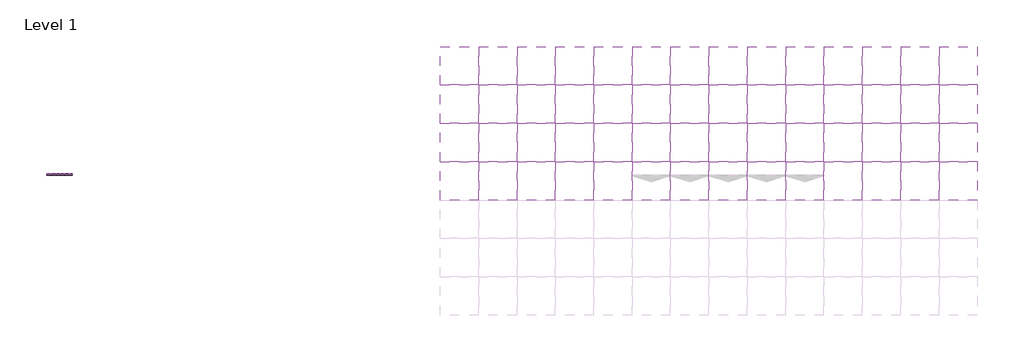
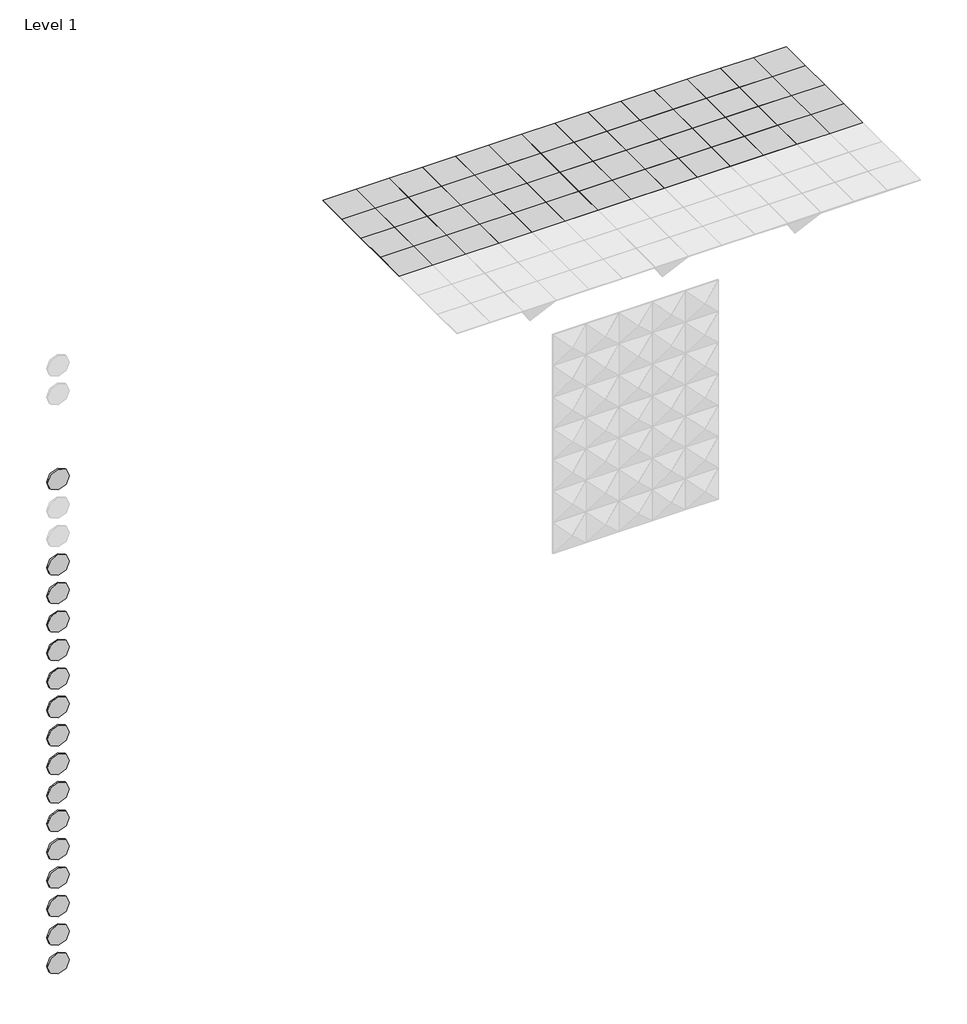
# One storey, part 2 of 2: 72 proxies.
"""IFC4 building model written with IfcOpenShell, lengths in millimetres."""

import ifcopenshell
import ifcopenshell.guid

model = None  # the IFC model being written
_history = None  # IfcOwnerHistory: only IFC2X3 demands one
_inside = {}  # id of a spatial element -> (the spatial element, [elements in it])
_under = {}  # id of a project, library or spatial element -> (it, [spatial elements below it])
_declared = {}  # id of a project -> (the project, [libraries it declares])
_typed = {}  # id of a type object -> (the type object, [elements of that type])
_made_of = {}  # id of a material, layer set ... -> (it, [elements and type objects made of it])


def new_model(schema):
    """Start an empty IFC model of exactly this schema.

    Asked for "IFC4X3", IfcOpenShell would pick the latest addendum, in which some entities
    have other attributes; the version numbers below select the first issue.
    IFC2X3 requires an IfcOwnerHistory on every rooted entity: one is made here for all.
    """
    global model, _history
    if schema == "IFC4X3":
        model = ifcopenshell.file(schema_version=(4, 3, 0, 0))
    else:
        model = ifcopenshell.file(schema=schema)
    _inside.clear()
    _under.clear()
    _declared.clear()
    _typed.clear()
    _made_of.clear()
    _history = None
    if model.schema == "IFC2X3":
        org = make("IfcOrganization", Name="unknown")
        user = make(
            "IfcPersonAndOrganization",
            ThePerson=make("IfcPerson", FamilyName="unknown"),
            TheOrganization=org,
        )
        app = make(
            "IfcApplication",
            ApplicationDeveloper=org,
            Version="unknown",
            ApplicationFullName="unknown",
            ApplicationIdentifier="unknown",
        )
        _history = make(
            "IfcOwnerHistory",
            OwningUser=user,
            OwningApplication=app,
            ChangeAction="ADDED",
            CreationDate=0,
        )
    return model


def make(cls, **values):
    """One entity of the class cls with the attributes given. An attribute that is None is left unset."""
    return model.create_entity(
        cls, **{name: value for name, value in values.items() if value is not None}
    )


def rooted(cls, **values):
    """An entity with a GlobalId (a new one), such as an element, a storey or a relation."""
    return make(cls, GlobalId=ifcopenshell.guid.new(), OwnerHistory=_history, **values)


def si_unit(unit_type, name, prefix=None):
    """IfcSIUnit, for example si_unit("LENGTHUNIT", "METRE", prefix="MILLI")."""
    return make("IfcSIUnit", UnitType=unit_type, Prefix=prefix, Name=name)


def assignment(units):
    """IfcUnitAssignment: the units of a project."""
    return None if units is None else make("IfcUnitAssignment", Units=units)


def point(xyz):
    """IfcCartesianPoint."""
    return None if xyz is None else make("IfcCartesianPoint", Coordinates=xyz)


def direction(xyz):
    """IfcDirection."""
    return None if xyz is None else make("IfcDirection", DirectionRatios=xyz)


def frame(location, z_axis=None, x_axis=None):
    """IfcAxis2Placement3D, a coordinate frame: its origin and axes. An axis left out is left unset."""
    return make(
        "IfcAxis2Placement3D",
        Location=point(location),
        Axis=direction(z_axis),
        RefDirection=direction(x_axis),
    )


def frame_2d(location, x_axis=None):
    """IfcAxis2Placement2D, a coordinate frame in the plane: its origin and x axis."""
    return make(
        "IfcAxis2Placement2D", Location=point(location), RefDirection=direction(x_axis)
    )


def origin():
    """The frame at (0, 0, 0) with its axes left unset."""
    return frame((0.0, 0.0, 0.0))


def origin_with_axes():
    """The frame at (0, 0, 0) with the z axis (0, 0, 1) and the x axis (1, 0, 0) written out."""
    return frame((0.0, 0.0, 0.0), z_axis=(0.0, 0.0, 1.0), x_axis=(1.0, 0.0, 0.0))


def place(relative_to, where):
    """IfcLocalPlacement: puts the frame where relative to a parent placement (None: the world)."""
    return make(
        "IfcLocalPlacement", PlacementRelTo=relative_to, RelativePlacement=where
    )


def context(
    kind, dimensions, precision=None, world=None, true_north=None, identifier=None
):
    """IfcGeometricRepresentationContext, for example the 3D "Model" context."""
    return make(
        "IfcGeometricRepresentationContext",
        ContextIdentifier=identifier,
        ContextType=kind,
        CoordinateSpaceDimension=dimensions,
        Precision=precision,
        WorldCoordinateSystem=world,
        TrueNorth=true_north,
    )


def project(units=None, contexts=None):
    """IfcProject with its units and contexts."""
    return rooted(
        "IfcProject",
        Name="project",
        RepresentationContexts=contexts,
        UnitsInContext=assignment(units),
    )


def spatial(cls, under=None, at=None, **own):
    """A site, building, storey or space (cls), placed at a placement, below another one or the project."""
    s = rooted(cls, ObjectPlacement=at, **own)
    if under is not None:
        _under.setdefault(under.id(), (under, []))[1].append(s)
    return s


def polyline(points):
    """IfcPolyline through the points."""
    return make("IfcPolyline", Points=[point(p) for p in points])


def circle_curve(where, radius):
    """IfcCircle in the frame where."""
    return make("IfcCircle", Position=where, Radius=radius)


def trimmed(basis, trim1, trim2, sense, master):
    """IfcTrimmedCurve: the piece of a basis curve between two trims."""
    return make(
        "IfcTrimmedCurve",
        BasisCurve=basis,
        Trim1=trim1,
        Trim2=trim2,
        SenseAgreement=sense,
        MasterRepresentation=master,
    )


def segment(curve, same_sense, transition):
    """IfcCompositeCurveSegment."""
    return make(
        "IfcCompositeCurveSegment",
        Transition=transition,
        SameSense=same_sense,
        ParentCurve=curve,
    )


def composite_curve(segments, self_intersect=None):
    """IfcCompositeCurve: segments joined end to end."""
    return make("IfcCompositeCurve", Segments=segments, SelfIntersect=self_intersect)


def outline(outer, holes=None, kind="AREA"):
    """IfcArbitraryClosedProfileDef: a profile drawn as a closed curve; with holes, ...WithVoids."""
    if holes is None:
        return make("IfcArbitraryClosedProfileDef", ProfileType=kind, OuterCurve=outer)
    return make(
        "IfcArbitraryProfileDefWithVoids",
        ProfileType=kind,
        OuterCurve=outer,
        InnerCurves=holes,
    )


def extrude(swept, where, along, depth):
    """IfcExtrudedAreaSolid: the profile swept, set in the frame where, extruded along a direction by depth."""
    return make(
        "IfcExtrudedAreaSolid",
        SweptArea=swept,
        Position=where,
        ExtrudedDirection=direction(along),
        Depth=depth,
    )


def faces_of(points, faces, orient=None, outer=None):
    """IfcFace entities. A face is a list of loops; a loop is a list of indices into points, from 0.

    orient and outer hold one flag for each loop. By default every Orientation is true, the
    first loop of a face is its IfcFaceOuterBound and the others are IfcFaceBound.
    """
    made = []
    for i, loops in enumerate(faces):
        bounds = []
        for j, loop in enumerate(loops):
            is_outer = j == 0 if outer is None else outer[i][j]
            bounds.append(
                make(
                    "IfcFaceOuterBound" if is_outer else "IfcFaceBound",
                    Bound=make("IfcPolyLoop", Polygon=[points[k] for k in loop]),
                    Orientation=True if orient is None else orient[i][j],
                )
            )
        made.append(make("IfcFace", Bounds=bounds))
    return made


def faceted_brep(points, faces, orient=None, outer=None, voids=None):
    """IfcFacetedBrep: a solid bounded by flat faces; with voids (closed shells), ...WithVoids."""
    shared = [point(p) for p in points]
    hull = make("IfcClosedShell", CfsFaces=faces_of(shared, faces, orient, outer))
    if voids is None:
        return make("IfcFacetedBrep", Outer=hull)
    return make(
        "IfcFacetedBrepWithVoids",
        Outer=hull,
        Voids=[
            make(cls, CfsFaces=faces_of(shared, fs, o, b)) for cls, fs, o, b in voids
        ],
    )


def shape(context_of_items, identifier, shape_type, items):
    """IfcShapeRepresentation: the items that make up one representation, for example the "Body"."""
    return make(
        "IfcShapeRepresentation",
        ContextOfItems=context_of_items,
        RepresentationIdentifier=identifier,
        RepresentationType=shape_type,
        Items=items,
    )


def source(mapping_origin, context_of_items, identifier, shape_type, items):
    """IfcRepresentationMap: a shape defined once, which mapped items show again and again."""
    return make(
        "IfcRepresentationMap",
        MappingOrigin=mapping_origin,
        MappedRepresentation=shape(context_of_items, identifier, shape_type, items),
    )


def transform(
    local_origin,
    x_axis=None,
    y_axis=None,
    z_axis=None,
    scale=None,
    scale2=None,
    scale3=None,
    uniform=True,
):
    """IfcCartesianTransformationOperator3D, or its non-uniform kind. x_axis, y_axis, z_axis: its Axis1, 2, 3."""
    if uniform:
        return make(
            "IfcCartesianTransformationOperator3D",
            Axis1=direction(x_axis),
            Axis2=direction(y_axis),
            LocalOrigin=point(local_origin),
            Scale=scale,
            Axis3=direction(z_axis),
        )
    return make(
        "IfcCartesianTransformationOperator3DnonUniform",
        Axis1=direction(x_axis),
        Axis2=direction(y_axis),
        LocalOrigin=point(local_origin),
        Scale=scale,
        Axis3=direction(z_axis),
        Scale2=scale2,
        Scale3=scale3,
    )


def mapped(mapping_source, mapping_target):
    """IfcMappedItem: shows the shape of a source again, moved by a transform."""
    return make(
        "IfcMappedItem", MappingSource=mapping_source, MappingTarget=mapping_target
    )


def made_of(thing, what):
    """Note that an element or type object is made of a material, layer set ...; save() writes the relation."""
    if what is not None:
        _made_of.setdefault(what.id(), (what, []))[1].append(thing)
    return thing


def element(
    cls,
    number,
    at=None,
    inside=None,
    cuts=None,
    type_object=None,
    material=None,
    context=None,
    identifier="Body",
    shape_type=None,
    held_by="IfcProductDefinitionShape",
    body=None,
    shapes=None,
    **own,
):
    """One element of the class cls, such as IfcWall. Its Tag is "e" and its number.

    at: its placement. inside: the storey or other place that contains it. cuts: it is an
    opening in that element (IfcRelVoidsElement). A single representation is given by context,
    identifier, shape_type and body (its items); several are given by shapes. held_by: the class
    of the entity that holds the representations. save() writes the other relations.
    """
    e = rooted(cls, Tag="e%d" % number, ObjectPlacement=at, **own)
    if body is not None:
        shapes = [shape(context, identifier, shape_type, body)]
    if shapes is not None:
        e.Representation = make(held_by, Representations=shapes)
    if inside is not None:
        _inside.setdefault(inside.id(), (inside, []))[1].append(e)
    if cuts is not None:
        rooted(
            "IfcRelVoidsElement", RelatingBuildingElement=cuts, RelatedOpeningElement=e
        )
    if type_object is not None:
        _typed.setdefault(type_object.id(), (type_object, []))[1].append(e)
    return made_of(e, material)


def aggregate(whole, parts):
    """IfcRelAggregates: a whole, such as a stair, and the parts it consists of."""
    return rooted("IfcRelAggregates", RelatingObject=whole, RelatedObjects=parts)


def save(model, path):
    """Write the relations noted so far, then the file.

    IfcRelAggregates (storeys below a building ...), IfcRelContainedInSpatialStructure (elements
    in a storey), IfcRelDefinesByType, IfcRelAssociatesMaterial and IfcRelDeclares: one each for
    every whole, place, type object, material and project.
    """
    for whole, parts in _under.values():
        aggregate(whole, parts)
    for where, things in _inside.values():
        rooted(
            "IfcRelContainedInSpatialStructure",
            RelatedElements=things,
            RelatingStructure=where,
        )
    for kind, things in _typed.values():
        rooted("IfcRelDefinesByType", RelatedObjects=things, RelatingType=kind)
    for what, things in _made_of.values():
        rooted("IfcRelAssociatesMaterial", RelatedObjects=things, RelatingMaterial=what)
    for by, libraries in _declared.values():
        rooted("IfcRelDeclares", RelatingContext=by, RelatedDefinitions=libraries)
    model.write(path)


def generic_models_96c18039(model_context):
    return source(origin(), model_context, "Body", "SolidModel", [
        faceted_brep([(0.5, 0.5, 470.8109243), (-0.5, 0.5, 470.8109243), (-0.5, -0.5, 470.8109243), (0.5, -0.5, 470.8109243), (300.0, 300.0, 11.5689886), (300.0, -300.0, 11.5689886), (-300.0, -300.0, 11.5689886), (-300.0, 300.0, 11.5689886)], [[[0, 1, 2, 3]], [[4, 5, 6, 7]], [[4, 7, 1, 0]], [[7, 6, 2, 1]], [[6, 5, 3, 2]], [[5, 4, 0, 3]]]),
        extrude(outline(polyline([(-300.0, 300.0), (300.0, 300.0), (300.0, -300.0), (-300.0, -300.0), (-300.0, 300.0)])), origin_with_axes(), (0.0, 0.0, 1.0), 11.5689886),
    ])


def generic_models_05e9e51e(model_context):
    return source(origin(), model_context, "Body", "SolidModel", [
        faceted_brep([(0.5, 0.5, 235.6489907), (-0.5, 0.5, 235.6489907), (-0.5, -0.5, 235.6489907), (0.5, -0.5, 235.6489907), (300.0, 300.0, 11.5689886), (300.0, -300.0, 11.5689886), (-300.0, -300.0, 11.5689886), (-300.0, 300.0, 11.5689886)], [[[0, 1, 2, 3]], [[4, 5, 6, 7]], [[4, 7, 1, 0]], [[7, 6, 2, 1]], [[6, 5, 3, 2]], [[5, 4, 0, 3]]]),
        extrude(outline(polyline([(-300.0, 300.0), (300.0, 300.0), (300.0, -300.0), (-300.0, -300.0), (-300.0, 300.0)])), origin_with_axes(), (0.0, 0.0, 1.0), 11.5689886),
    ])


def generic_models_07637b28(model_context):
    return source(origin(), model_context, "Body", "SolidModel", [
        faceted_brep([(0.5, 0.5, 100.6580242), (-0.5, 0.5, 100.6580242), (-0.5, -0.5, 100.6580242), (0.5, -0.5, 100.6580242), (300.0, 300.0, 11.5689886), (300.0, -300.0, 11.5689886), (-300.0, -300.0, 11.5689886), (-300.0, 300.0, 11.5689886)], [[[0, 1, 2, 3]], [[4, 5, 6, 7]], [[4, 7, 1, 0]], [[7, 6, 2, 1]], [[6, 5, 3, 2]], [[5, 4, 0, 3]]]),
        extrude(outline(polyline([(-300.0, 300.0), (300.0, 300.0), (300.0, -300.0), (-300.0, -300.0), (-300.0, 300.0)])), origin_with_axes(), (0.0, 0.0, 1.0), 11.5689886),
    ])


def materialmodel_materialmodel_8d9c29e1(model_context):
    return source(origin(), model_context, "Body", "SweptSolid", [
        extrude(outline(composite_curve([segment(trimmed(circle_curve(frame_2d((25.0, 0.0)), 200.0), [point((25.0, -200.0))], [point((25.0, 200.0))], False, "CARTESIAN"), True, "CONTINUOUS"), segment(trimmed(circle_curve(frame_2d((25.0, 0.0)), 200.0), [point((25.0, 200.0))], [point((25.0, -200.0))], False, "CARTESIAN"), True, "CONTINUOUS")], self_intersect=False)), frame((0.0, 2.1186748, 0.0), z_axis=(0.0, 1.0, 0.0), x_axis=(0.0, 0.0, 1.0)), (0.0, 0.0, 1.0), 22.8813252),
    ])


model = new_model("IFC4")

# Units and contexts
model_context = context("Model", 3, world=origin())
ifc_project = project(units=[si_unit("LENGTHUNIT", "METRE", prefix="MILLI")], contexts=[model_context])

# Site, building, storey
site = spatial("IfcSite", under=ifc_project)
building = spatial("IfcBuilding", under=site)
storey = spatial("IfcBuildingStorey", under=building, Name="Level 1", Elevation=0.0)

# Proxies
placement = place(None, origin())
generic_models_shape = generic_models_96c18039(model_context)
element("IfcBuildingElementProxy", 1, Name="Offecct - Spiegel Panel - High : Offecct - Spiegel Panel - High", ObjectType="Offecct - Spiegel Panel - High : Offecct - Spiegel Panel - High", at=placement, inside=storey, context=model_context, shape_type="MappedRepresentation", body=[
    mapped(generic_models_shape, transform((-2002.4310671, 531.0675754, 6600.0), x_axis=(1.0, 0.0, 0.0), y_axis=(0.0, -1.0, 0.0), z_axis=(0.0, 0.0, -1.0))),
])
element("IfcBuildingElementProxy", 2, Name="Offecct - Spiegel Panel - High : Offecct - Spiegel Panel - High", ObjectType="Offecct - Spiegel Panel - High : Offecct - Spiegel Panel - High", at=placement, inside=storey, context=model_context, shape_type="MappedRepresentation", body=[
    mapped(generic_models_shape, transform((397.5689329, 531.0675754, 6600.0), x_axis=(1.0, 0.0, 0.0), y_axis=(0.0, -1.0, 0.0), z_axis=(0.0, 0.0, -1.0))),
])
element("IfcBuildingElementProxy", 3, Name="Offecct - Spiegel Panel - High : Offecct - Spiegel Panel - High", ObjectType="Offecct - Spiegel Panel - High : Offecct - Spiegel Panel - High", at=placement, inside=storey, context=model_context, shape_type="MappedRepresentation", body=[
    mapped(generic_models_shape, transform((2797.5689329, 531.0675754, 6600.0), x_axis=(1.0, 0.0, 0.0), y_axis=(0.0, -1.0, 0.0), z_axis=(0.0, 0.0, -1.0))),
])
element("IfcBuildingElementProxy", 4, Name="Offecct - Spiegel Panel - High : Offecct - Spiegel Panel - High", ObjectType="Offecct - Spiegel Panel - High : Offecct - Spiegel Panel - High", at=placement, inside=storey, context=model_context, shape_type="MappedRepresentation", body=[
    mapped(generic_models_shape, transform((-2002.4310671, 1131.0675754, 6600.0), x_axis=(1.0, 0.0, 0.0), y_axis=(0.0, -1.0, 0.0), z_axis=(0.0, 0.0, -1.0))),
])
element("IfcBuildingElementProxy", 5, Name="Offecct - Spiegel Panel - High : Offecct - Spiegel Panel - High", ObjectType="Offecct - Spiegel Panel - High : Offecct - Spiegel Panel - High", at=placement, inside=storey, context=model_context, shape_type="MappedRepresentation", body=[
    mapped(generic_models_shape, transform((397.5689329, 1131.0675754, 6600.0), x_axis=(1.0, 0.0, 0.0), y_axis=(0.0, -1.0, 0.0), z_axis=(0.0, 0.0, -1.0))),
])
element("IfcBuildingElementProxy", 6, Name="Offecct - Spiegel Panel - High : Offecct - Spiegel Panel - High", ObjectType="Offecct - Spiegel Panel - High : Offecct - Spiegel Panel - High", at=placement, inside=storey, context=model_context, shape_type="MappedRepresentation", body=[
    mapped(generic_models_shape, transform((2797.5689329, 1131.0675754, 6600.0), x_axis=(1.0, 0.0, 0.0), y_axis=(0.0, -1.0, 0.0), z_axis=(0.0, 0.0, -1.0))),
])
element("IfcBuildingElementProxy", 7, Name="Offecct - Spiegel Panel - High : Offecct - Spiegel Panel - High", ObjectType="Offecct - Spiegel Panel - High : Offecct - Spiegel Panel - High", at=placement, inside=storey, context=model_context, shape_type="MappedRepresentation", body=[
    mapped(generic_models_shape, transform((-2002.4310671, 1731.0675754, 6600.0), x_axis=(1.0, 0.0, 0.0), y_axis=(0.0, -1.0, 0.0), z_axis=(0.0, 0.0, -1.0))),
])
element("IfcBuildingElementProxy", 8, Name="Offecct - Spiegel Panel - High : Offecct - Spiegel Panel - High", ObjectType="Offecct - Spiegel Panel - High : Offecct - Spiegel Panel - High", at=placement, inside=storey, context=model_context, shape_type="MappedRepresentation", body=[
    mapped(generic_models_shape, transform((397.5689329, 1731.0675754, 6600.0), x_axis=(1.0, 0.0, 0.0), y_axis=(0.0, -1.0, 0.0), z_axis=(0.0, 0.0, -1.0))),
])
element("IfcBuildingElementProxy", 9, Name="Offecct - Spiegel Panel - High : Offecct - Spiegel Panel - High", ObjectType="Offecct - Spiegel Panel - High : Offecct - Spiegel Panel - High", at=placement, inside=storey, context=model_context, shape_type="MappedRepresentation", body=[
    mapped(generic_models_shape, transform((2797.5689329, 1731.0675754, 6600.0), x_axis=(1.0, 0.0, 0.0), y_axis=(0.0, -1.0, 0.0), z_axis=(0.0, 0.0, -1.0))),
])
element("IfcBuildingElementProxy", 10, Name="Offecct - Spiegel Panel - High : Offecct - Spiegel Panel - High", ObjectType="Offecct - Spiegel Panel - High : Offecct - Spiegel Panel - High", at=placement, inside=storey, context=model_context, shape_type="MappedRepresentation", body=[
    mapped(generic_models_shape, transform((-2002.4310671, 2331.0675754, 6600.0), x_axis=(1.0, 0.0, 0.0), y_axis=(0.0, -1.0, 0.0), z_axis=(0.0, 0.0, -1.0))),
])
element("IfcBuildingElementProxy", 11, Name="Offecct - Spiegel Panel - High : Offecct - Spiegel Panel - High", ObjectType="Offecct - Spiegel Panel - High : Offecct - Spiegel Panel - High", at=placement, inside=storey, context=model_context, shape_type="MappedRepresentation", body=[
    mapped(generic_models_shape, transform((397.5689329, 2331.0675754, 6600.0), x_axis=(1.0, 0.0, 0.0), y_axis=(0.0, -1.0, 0.0), z_axis=(0.0, 0.0, -1.0))),
])
element("IfcBuildingElementProxy", 12, Name="Offecct - Spiegel Panel - High : Offecct - Spiegel Panel - High", ObjectType="Offecct - Spiegel Panel - High : Offecct - Spiegel Panel - High", at=placement, inside=storey, context=model_context, shape_type="MappedRepresentation", body=[
    mapped(generic_models_shape, transform((2797.5689329, 2331.0675754, 6600.0), x_axis=(1.0, 0.0, 0.0), y_axis=(0.0, -1.0, 0.0), z_axis=(0.0, 0.0, -1.0))),
])
generic_models_2_shape = generic_models_05e9e51e(model_context)
element("IfcBuildingElementProxy", 13, Name="Offecct - Spiegel Panel - Medium : Offecct - Spiegel Panel - Medium", ObjectType="Offecct - Spiegel Panel - Medium : Offecct - Spiegel Panel - Medium", at=placement, inside=storey, context=model_context, shape_type="MappedRepresentation", body=[
    mapped(generic_models_2_shape, transform((-2602.4310671, 531.0675754, 6600.0), x_axis=(1.0, 0.0, 0.0), y_axis=(0.0, -1.0, 0.0), z_axis=(0.0, 0.0, -1.0))),
])
element("IfcBuildingElementProxy", 14, Name="Offecct - Spiegel Panel - Medium : Offecct - Spiegel Panel - Medium", ObjectType="Offecct - Spiegel Panel - Medium : Offecct - Spiegel Panel - Medium", at=placement, inside=storey, context=model_context, shape_type="MappedRepresentation", body=[
    mapped(generic_models_2_shape, transform((-1402.4310671, 531.0675754, 6600.0), x_axis=(1.0, 0.0, 0.0), y_axis=(0.0, -1.0, 0.0), z_axis=(0.0, 0.0, -1.0))),
])
element("IfcBuildingElementProxy", 15, Name="Offecct - Spiegel Panel - Medium : Offecct - Spiegel Panel - Medium", ObjectType="Offecct - Spiegel Panel - Medium : Offecct - Spiegel Panel - Medium", at=placement, inside=storey, context=model_context, shape_type="MappedRepresentation", body=[
    mapped(generic_models_2_shape, transform((-202.4310671, 531.0675754, 6600.0), x_axis=(1.0, 0.0, 0.0), y_axis=(0.0, -1.0, 0.0), z_axis=(0.0, 0.0, -1.0))),
])
element("IfcBuildingElementProxy", 16, Name="Offecct - Spiegel Panel - Medium : Offecct - Spiegel Panel - Medium", ObjectType="Offecct - Spiegel Panel - Medium : Offecct - Spiegel Panel - Medium", at=placement, inside=storey, context=model_context, shape_type="MappedRepresentation", body=[
    mapped(generic_models_2_shape, transform((997.5689329, 531.0675754, 6600.0), x_axis=(1.0, 0.0, 0.0), y_axis=(0.0, -1.0, 0.0), z_axis=(0.0, 0.0, -1.0))),
])
element("IfcBuildingElementProxy", 17, Name="Offecct - Spiegel Panel - Medium : Offecct - Spiegel Panel - Medium", ObjectType="Offecct - Spiegel Panel - Medium : Offecct - Spiegel Panel - Medium", at=placement, inside=storey, context=model_context, shape_type="MappedRepresentation", body=[
    mapped(generic_models_2_shape, transform((2197.5689329, 531.0675754, 6600.0), x_axis=(1.0, 0.0, 0.0), y_axis=(0.0, -1.0, 0.0), z_axis=(0.0, 0.0, -1.0))),
])
element("IfcBuildingElementProxy", 18, Name="Offecct - Spiegel Panel - Medium : Offecct - Spiegel Panel - Medium", ObjectType="Offecct - Spiegel Panel - Medium : Offecct - Spiegel Panel - Medium", at=placement, inside=storey, context=model_context, shape_type="MappedRepresentation", body=[
    mapped(generic_models_2_shape, transform((3397.5689329, 531.0675754, 6600.0), x_axis=(1.0, 0.0, 0.0), y_axis=(0.0, -1.0, 0.0), z_axis=(0.0, 0.0, -1.0))),
])
element("IfcBuildingElementProxy", 19, Name="Offecct - Spiegel Panel - Medium : Offecct - Spiegel Panel - Medium", ObjectType="Offecct - Spiegel Panel - Medium : Offecct - Spiegel Panel - Medium", at=placement, inside=storey, context=model_context, shape_type="MappedRepresentation", body=[
    mapped(generic_models_2_shape, transform((4597.5689329, 531.0675754, 6600.0), x_axis=(1.0, 0.0, 0.0), y_axis=(0.0, -1.0, 0.0), z_axis=(0.0, 0.0, -1.0))),
])
element("IfcBuildingElementProxy", 20, Name="Offecct - Spiegel Panel - Medium : Offecct - Spiegel Panel - Medium", ObjectType="Offecct - Spiegel Panel - Medium : Offecct - Spiegel Panel - Medium", at=placement, inside=storey, context=model_context, shape_type="MappedRepresentation", body=[
    mapped(generic_models_2_shape, transform((-2602.4310671, 1131.0675754, 6600.0), x_axis=(1.0, 0.0, 0.0), y_axis=(0.0, -1.0, 0.0), z_axis=(0.0, 0.0, -1.0))),
])
element("IfcBuildingElementProxy", 21, Name="Offecct - Spiegel Panel - Medium : Offecct - Spiegel Panel - Medium", ObjectType="Offecct - Spiegel Panel - Medium : Offecct - Spiegel Panel - Medium", at=placement, inside=storey, context=model_context, shape_type="MappedRepresentation", body=[
    mapped(generic_models_2_shape, transform((-1402.4310671, 1131.0675754, 6600.0), x_axis=(1.0, 0.0, 0.0), y_axis=(0.0, -1.0, 0.0), z_axis=(0.0, 0.0, -1.0))),
])
element("IfcBuildingElementProxy", 22, Name="Offecct - Spiegel Panel - Medium : Offecct - Spiegel Panel - Medium", ObjectType="Offecct - Spiegel Panel - Medium : Offecct - Spiegel Panel - Medium", at=placement, inside=storey, context=model_context, shape_type="MappedRepresentation", body=[
    mapped(generic_models_2_shape, transform((-202.4310671, 1131.0675754, 6600.0), x_axis=(1.0, 0.0, 0.0), y_axis=(0.0, -1.0, 0.0), z_axis=(0.0, 0.0, -1.0))),
])
element("IfcBuildingElementProxy", 23, Name="Offecct - Spiegel Panel - Medium : Offecct - Spiegel Panel - Medium", ObjectType="Offecct - Spiegel Panel - Medium : Offecct - Spiegel Panel - Medium", at=placement, inside=storey, context=model_context, shape_type="MappedRepresentation", body=[
    mapped(generic_models_2_shape, transform((997.5689329, 1131.0675754, 6600.0), x_axis=(1.0, 0.0, 0.0), y_axis=(0.0, -1.0, 0.0), z_axis=(0.0, 0.0, -1.0))),
])
element("IfcBuildingElementProxy", 24, Name="Offecct - Spiegel Panel - Medium : Offecct - Spiegel Panel - Medium", ObjectType="Offecct - Spiegel Panel - Medium : Offecct - Spiegel Panel - Medium", at=placement, inside=storey, context=model_context, shape_type="MappedRepresentation", body=[
    mapped(generic_models_2_shape, transform((2197.5689329, 1131.0675754, 6600.0), x_axis=(1.0, 0.0, 0.0), y_axis=(0.0, -1.0, 0.0), z_axis=(0.0, 0.0, -1.0))),
])
element("IfcBuildingElementProxy", 25, Name="Offecct - Spiegel Panel - Medium : Offecct - Spiegel Panel - Medium", ObjectType="Offecct - Spiegel Panel - Medium : Offecct - Spiegel Panel - Medium", at=placement, inside=storey, context=model_context, shape_type="MappedRepresentation", body=[
    mapped(generic_models_2_shape, transform((3397.5689329, 1131.0675754, 6600.0), x_axis=(1.0, 0.0, 0.0), y_axis=(0.0, -1.0, 0.0), z_axis=(0.0, 0.0, -1.0))),
])
element("IfcBuildingElementProxy", 26, Name="Offecct - Spiegel Panel - Medium : Offecct - Spiegel Panel - Medium", ObjectType="Offecct - Spiegel Panel - Medium : Offecct - Spiegel Panel - Medium", at=placement, inside=storey, context=model_context, shape_type="MappedRepresentation", body=[
    mapped(generic_models_2_shape, transform((4597.5689329, 1131.0675754, 6600.0), x_axis=(1.0, 0.0, 0.0), y_axis=(0.0, -1.0, 0.0), z_axis=(0.0, 0.0, -1.0))),
])
element("IfcBuildingElementProxy", 27, Name="Offecct - Spiegel Panel - Medium : Offecct - Spiegel Panel - Medium", ObjectType="Offecct - Spiegel Panel - Medium : Offecct - Spiegel Panel - Medium", at=placement, inside=storey, context=model_context, shape_type="MappedRepresentation", body=[
    mapped(generic_models_2_shape, transform((-2602.4310671, 1731.0675754, 6600.0), x_axis=(1.0, 0.0, 0.0), y_axis=(0.0, -1.0, 0.0), z_axis=(0.0, 0.0, -1.0))),
])
element("IfcBuildingElementProxy", 28, Name="Offecct - Spiegel Panel - Medium : Offecct - Spiegel Panel - Medium", ObjectType="Offecct - Spiegel Panel - Medium : Offecct - Spiegel Panel - Medium", at=placement, inside=storey, context=model_context, shape_type="MappedRepresentation", body=[
    mapped(generic_models_2_shape, transform((-1402.4310671, 1731.0675754, 6600.0), x_axis=(1.0, 0.0, 0.0), y_axis=(0.0, -1.0, 0.0), z_axis=(0.0, 0.0, -1.0))),
])
element("IfcBuildingElementProxy", 29, Name="Offecct - Spiegel Panel - Medium : Offecct - Spiegel Panel - Medium", ObjectType="Offecct - Spiegel Panel - Medium : Offecct - Spiegel Panel - Medium", at=placement, inside=storey, context=model_context, shape_type="MappedRepresentation", body=[
    mapped(generic_models_2_shape, transform((-202.4310671, 1731.0675754, 6600.0), x_axis=(1.0, 0.0, 0.0), y_axis=(0.0, -1.0, 0.0), z_axis=(0.0, 0.0, -1.0))),
])
element("IfcBuildingElementProxy", 30, Name="Offecct - Spiegel Panel - Medium : Offecct - Spiegel Panel - Medium", ObjectType="Offecct - Spiegel Panel - Medium : Offecct - Spiegel Panel - Medium", at=placement, inside=storey, context=model_context, shape_type="MappedRepresentation", body=[
    mapped(generic_models_2_shape, transform((997.5689329, 1731.0675754, 6600.0), x_axis=(1.0, 0.0, 0.0), y_axis=(0.0, -1.0, 0.0), z_axis=(0.0, 0.0, -1.0))),
])
element("IfcBuildingElementProxy", 31, Name="Offecct - Spiegel Panel - Medium : Offecct - Spiegel Panel - Medium", ObjectType="Offecct - Spiegel Panel - Medium : Offecct - Spiegel Panel - Medium", at=placement, inside=storey, context=model_context, shape_type="MappedRepresentation", body=[
    mapped(generic_models_2_shape, transform((2197.5689329, 1731.0675754, 6600.0), x_axis=(1.0, 0.0, 0.0), y_axis=(0.0, -1.0, 0.0), z_axis=(0.0, 0.0, -1.0))),
])
element("IfcBuildingElementProxy", 32, Name="Offecct - Spiegel Panel - Medium : Offecct - Spiegel Panel - Medium", ObjectType="Offecct - Spiegel Panel - Medium : Offecct - Spiegel Panel - Medium", at=placement, inside=storey, context=model_context, shape_type="MappedRepresentation", body=[
    mapped(generic_models_2_shape, transform((3397.5689329, 1731.0675754, 6600.0), x_axis=(1.0, 0.0, 0.0), y_axis=(0.0, -1.0, 0.0), z_axis=(0.0, 0.0, -1.0))),
])
element("IfcBuildingElementProxy", 33, Name="Offecct - Spiegel Panel - Medium : Offecct - Spiegel Panel - Medium", ObjectType="Offecct - Spiegel Panel - Medium : Offecct - Spiegel Panel - Medium", at=placement, inside=storey, context=model_context, shape_type="MappedRepresentation", body=[
    mapped(generic_models_2_shape, transform((4597.5689329, 1731.0675754, 6600.0), x_axis=(1.0, 0.0, 0.0), y_axis=(0.0, -1.0, 0.0), z_axis=(0.0, 0.0, -1.0))),
])
element("IfcBuildingElementProxy", 34, Name="Offecct - Spiegel Panel - Medium : Offecct - Spiegel Panel - Medium", ObjectType="Offecct - Spiegel Panel - Medium : Offecct - Spiegel Panel - Medium", at=placement, inside=storey, context=model_context, shape_type="MappedRepresentation", body=[
    mapped(generic_models_2_shape, transform((-2602.4310671, 2331.0675754, 6600.0), x_axis=(1.0, 0.0, 0.0), y_axis=(0.0, -1.0, 0.0), z_axis=(0.0, 0.0, -1.0))),
])
element("IfcBuildingElementProxy", 35, Name="Offecct - Spiegel Panel - Medium : Offecct - Spiegel Panel - Medium", ObjectType="Offecct - Spiegel Panel - Medium : Offecct - Spiegel Panel - Medium", at=placement, inside=storey, context=model_context, shape_type="MappedRepresentation", body=[
    mapped(generic_models_2_shape, transform((-1402.4310671, 2331.0675754, 6600.0), x_axis=(1.0, 0.0, 0.0), y_axis=(0.0, -1.0, 0.0), z_axis=(0.0, 0.0, -1.0))),
])
element("IfcBuildingElementProxy", 36, Name="Offecct - Spiegel Panel - Medium : Offecct - Spiegel Panel - Medium", ObjectType="Offecct - Spiegel Panel - Medium : Offecct - Spiegel Panel - Medium", at=placement, inside=storey, context=model_context, shape_type="MappedRepresentation", body=[
    mapped(generic_models_2_shape, transform((-202.4310671, 2331.0675754, 6600.0), x_axis=(1.0, 0.0, 0.0), y_axis=(0.0, -1.0, 0.0), z_axis=(0.0, 0.0, -1.0))),
])
element("IfcBuildingElementProxy", 37, Name="Offecct - Spiegel Panel - Medium : Offecct - Spiegel Panel - Medium", ObjectType="Offecct - Spiegel Panel - Medium : Offecct - Spiegel Panel - Medium", at=placement, inside=storey, context=model_context, shape_type="MappedRepresentation", body=[
    mapped(generic_models_2_shape, transform((997.5689329, 2331.0675754, 6600.0), x_axis=(1.0, 0.0, 0.0), y_axis=(0.0, -1.0, 0.0), z_axis=(0.0, 0.0, -1.0))),
])
element("IfcBuildingElementProxy", 38, Name="Offecct - Spiegel Panel - Medium : Offecct - Spiegel Panel - Medium", ObjectType="Offecct - Spiegel Panel - Medium : Offecct - Spiegel Panel - Medium", at=placement, inside=storey, context=model_context, shape_type="MappedRepresentation", body=[
    mapped(generic_models_2_shape, transform((2197.5689329, 2331.0675754, 6600.0), x_axis=(1.0, 0.0, 0.0), y_axis=(0.0, -1.0, 0.0), z_axis=(0.0, 0.0, -1.0))),
])
element("IfcBuildingElementProxy", 39, Name="Offecct - Spiegel Panel - Medium : Offecct - Spiegel Panel - Medium", ObjectType="Offecct - Spiegel Panel - Medium : Offecct - Spiegel Panel - Medium", at=placement, inside=storey, context=model_context, shape_type="MappedRepresentation", body=[
    mapped(generic_models_2_shape, transform((3397.5689329, 2331.0675754, 6600.0), x_axis=(1.0, 0.0, 0.0), y_axis=(0.0, -1.0, 0.0), z_axis=(0.0, 0.0, -1.0))),
])
element("IfcBuildingElementProxy", 40, Name="Offecct - Spiegel Panel - Medium : Offecct - Spiegel Panel - Medium", ObjectType="Offecct - Spiegel Panel - Medium : Offecct - Spiegel Panel - Medium", at=placement, inside=storey, context=model_context, shape_type="MappedRepresentation", body=[
    mapped(generic_models_2_shape, transform((4597.5689329, 2331.0675754, 6600.0), x_axis=(1.0, 0.0, 0.0), y_axis=(0.0, -1.0, 0.0), z_axis=(0.0, 0.0, -1.0))),
])
generic_models_3_shape = generic_models_07637b28(model_context)
element("IfcBuildingElementProxy", 41, Name="Offecct - Spiegel Panel - Low : Offecct - Spiegel Panel - Low", ObjectType="Offecct - Spiegel Panel - Low : Offecct - Spiegel Panel - Low", at=placement, inside=storey, context=model_context, shape_type="MappedRepresentation", body=[
    mapped(generic_models_3_shape, transform((-802.4310671, 531.0675754, 6600.0), x_axis=(1.0, 0.0, 0.0), y_axis=(0.0, -1.0, 0.0), z_axis=(0.0, 0.0, -1.0))),
])
element("IfcBuildingElementProxy", 42, Name="Offecct - Spiegel Panel - Low : Offecct - Spiegel Panel - Low", ObjectType="Offecct - Spiegel Panel - Low : Offecct - Spiegel Panel - Low", at=placement, inside=storey, context=model_context, shape_type="MappedRepresentation", body=[
    mapped(generic_models_3_shape, transform((1597.5689329, 531.0675754, 6600.0), x_axis=(1.0, 0.0, 0.0), y_axis=(0.0, -1.0, 0.0), z_axis=(0.0, 0.0, -1.0))),
])
element("IfcBuildingElementProxy", 43, Name="Offecct - Spiegel Panel - Low : Offecct - Spiegel Panel - Low", ObjectType="Offecct - Spiegel Panel - Low : Offecct - Spiegel Panel - Low", at=placement, inside=storey, context=model_context, shape_type="MappedRepresentation", body=[
    mapped(generic_models_3_shape, transform((3997.5689329, 531.0675754, 6600.0), x_axis=(1.0, 0.0, 0.0), y_axis=(0.0, -1.0, 0.0), z_axis=(0.0, 0.0, -1.0))),
])
element("IfcBuildingElementProxy", 44, Name="Offecct - Spiegel Panel - Low : Offecct - Spiegel Panel - Low", ObjectType="Offecct - Spiegel Panel - Low : Offecct - Spiegel Panel - Low", at=placement, inside=storey, context=model_context, shape_type="MappedRepresentation", body=[
    mapped(generic_models_3_shape, transform((-802.4310671, 1131.0675754, 6600.0), x_axis=(1.0, 0.0, 0.0), y_axis=(0.0, -1.0, 0.0), z_axis=(0.0, 0.0, -1.0))),
])
element("IfcBuildingElementProxy", 45, Name="Offecct - Spiegel Panel - Low : Offecct - Spiegel Panel - Low", ObjectType="Offecct - Spiegel Panel - Low : Offecct - Spiegel Panel - Low", at=placement, inside=storey, context=model_context, shape_type="MappedRepresentation", body=[
    mapped(generic_models_3_shape, transform((1597.5689329, 1131.0675754, 6600.0), x_axis=(1.0, 0.0, 0.0), y_axis=(0.0, -1.0, 0.0), z_axis=(0.0, 0.0, -1.0))),
])
element("IfcBuildingElementProxy", 46, Name="Offecct - Spiegel Panel - Low : Offecct - Spiegel Panel - Low", ObjectType="Offecct - Spiegel Panel - Low : Offecct - Spiegel Panel - Low", at=placement, inside=storey, context=model_context, shape_type="MappedRepresentation", body=[
    mapped(generic_models_3_shape, transform((3997.5689329, 1131.0675754, 6600.0), x_axis=(1.0, 0.0, 0.0), y_axis=(0.0, -1.0, 0.0), z_axis=(0.0, 0.0, -1.0))),
])
element("IfcBuildingElementProxy", 47, Name="Offecct - Spiegel Panel - Low : Offecct - Spiegel Panel - Low", ObjectType="Offecct - Spiegel Panel - Low : Offecct - Spiegel Panel - Low", at=placement, inside=storey, context=model_context, shape_type="MappedRepresentation", body=[
    mapped(generic_models_3_shape, transform((-802.4310671, 1731.0675754, 6600.0), x_axis=(1.0, 0.0, 0.0), y_axis=(0.0, -1.0, 0.0), z_axis=(0.0, 0.0, -1.0))),
])
element("IfcBuildingElementProxy", 48, Name="Offecct - Spiegel Panel - Low : Offecct - Spiegel Panel - Low", ObjectType="Offecct - Spiegel Panel - Low : Offecct - Spiegel Panel - Low", at=placement, inside=storey, context=model_context, shape_type="MappedRepresentation", body=[
    mapped(generic_models_3_shape, transform((1597.5689329, 1731.0675754, 6600.0), x_axis=(1.0, 0.0, 0.0), y_axis=(0.0, -1.0, 0.0), z_axis=(0.0, 0.0, -1.0))),
])
element("IfcBuildingElementProxy", 49, Name="Offecct - Spiegel Panel - Low : Offecct - Spiegel Panel - Low", ObjectType="Offecct - Spiegel Panel - Low : Offecct - Spiegel Panel - Low", at=placement, inside=storey, context=model_context, shape_type="MappedRepresentation", body=[
    mapped(generic_models_3_shape, transform((3997.5689329, 1731.0675754, 6600.0), x_axis=(1.0, 0.0, 0.0), y_axis=(0.0, -1.0, 0.0), z_axis=(0.0, 0.0, -1.0))),
])
element("IfcBuildingElementProxy", 50, Name="Offecct - Spiegel Panel - Low : Offecct - Spiegel Panel - Low", ObjectType="Offecct - Spiegel Panel - Low : Offecct - Spiegel Panel - Low", at=placement, inside=storey, context=model_context, shape_type="MappedRepresentation", body=[
    mapped(generic_models_3_shape, transform((-802.4310671, 2331.0675754, 6600.0), x_axis=(1.0, 0.0, 0.0), y_axis=(0.0, -1.0, 0.0), z_axis=(0.0, 0.0, -1.0))),
])
element("IfcBuildingElementProxy", 51, Name="Offecct - Spiegel Panel - Low : Offecct - Spiegel Panel - Low", ObjectType="Offecct - Spiegel Panel - Low : Offecct - Spiegel Panel - Low", at=placement, inside=storey, context=model_context, shape_type="MappedRepresentation", body=[
    mapped(generic_models_3_shape, transform((1597.5689329, 2331.0675754, 6600.0), x_axis=(1.0, 0.0, 0.0), y_axis=(0.0, -1.0, 0.0), z_axis=(0.0, 0.0, -1.0))),
])
element("IfcBuildingElementProxy", 52, Name="Offecct - Spiegel Panel - Low : Offecct - Spiegel Panel - Low", ObjectType="Offecct - Spiegel Panel - Low : Offecct - Spiegel Panel - Low", at=placement, inside=storey, context=model_context, shape_type="MappedRepresentation", body=[
    mapped(generic_models_3_shape, transform((3997.5689329, 2331.0675754, 6600.0), x_axis=(1.0, 0.0, 0.0), y_axis=(0.0, -1.0, 0.0), z_axis=(0.0, 0.0, -1.0))),
])
element("IfcBuildingElementProxy", 53, Name="Offecct - Spiegel Panel - Low : Offecct - Spiegel Panel - Low", ObjectType="Offecct - Spiegel Panel - Low : Offecct - Spiegel Panel - Low", at=placement, inside=storey, context=model_context, shape_type="MappedRepresentation", body=[
    mapped(generic_models_3_shape, transform((-3202.4310671, 531.0675754, 6600.0), x_axis=(1.0, 0.0, 0.0), y_axis=(0.0, -1.0, 0.0), z_axis=(0.0, 0.0, -1.0))),
])
element("IfcBuildingElementProxy", 54, Name="Offecct - Spiegel Panel - Low : Offecct - Spiegel Panel - Low", ObjectType="Offecct - Spiegel Panel - Low : Offecct - Spiegel Panel - Low", at=placement, inside=storey, context=model_context, shape_type="MappedRepresentation", body=[
    mapped(generic_models_3_shape, transform((-3202.4310671, 1131.0675754, 6600.0), x_axis=(1.0, 0.0, 0.0), y_axis=(0.0, -1.0, 0.0), z_axis=(0.0, 0.0, -1.0))),
])
element("IfcBuildingElementProxy", 55, Name="Offecct - Spiegel Panel - Low : Offecct - Spiegel Panel - Low", ObjectType="Offecct - Spiegel Panel - Low : Offecct - Spiegel Panel - Low", at=placement, inside=storey, context=model_context, shape_type="MappedRepresentation", body=[
    mapped(generic_models_3_shape, transform((-3202.4310671, 1731.0675754, 6600.0), x_axis=(1.0, 0.0, 0.0), y_axis=(0.0, -1.0, 0.0), z_axis=(0.0, 0.0, -1.0))),
])
element("IfcBuildingElementProxy", 56, Name="Offecct - Spiegel Panel - Low : Offecct - Spiegel Panel - Low", ObjectType="Offecct - Spiegel Panel - Low : Offecct - Spiegel Panel - Low", at=placement, inside=storey, context=model_context, shape_type="MappedRepresentation", body=[
    mapped(generic_models_3_shape, transform((-3202.4310671, 2331.0675754, 6600.0), x_axis=(1.0, 0.0, 0.0), y_axis=(0.0, -1.0, 0.0), z_axis=(0.0, 0.0, -1.0))),
])
materialmodel_materialmodel_shape = materialmodel_materialmodel_8d9c29e1(model_context)
element("IfcBuildingElementProxy", 57, Name="MaterialModel : MaterialModel", ObjectType="MaterialModel : MaterialModel", at=placement, inside=storey, context=model_context, shape_type="MappedRepresentation", body=[
    mapped(materialmodel_materialmodel_shape, transform((-9459.2715742, 621.415272, 4527.2821732), x_axis=(1.0, 0.0, 0.0), y_axis=(0.0, 1.0, 0.0), z_axis=(0.0, 0.0, 1.0))),
])
element("IfcBuildingElementProxy", 58, Name="MaterialModel : MaterialModel", ObjectType="MaterialModel : MaterialModel", at=placement, inside=storey, context=model_context, shape_type="MappedRepresentation", body=[
    mapped(materialmodel_materialmodel_shape, transform((-9459.2715742, 621.415272, 2346.6847317), x_axis=(1.0, 0.0, 0.0), y_axis=(0.0, 1.0, 0.0), z_axis=(0.0, 0.0, 1.0))),
])
element("IfcBuildingElementProxy", 59, Name="MaterialModel : MaterialModel", ObjectType="MaterialModel : MaterialModel", at=placement, inside=storey, context=model_context, shape_type="MappedRepresentation", body=[
    mapped(materialmodel_materialmodel_shape, transform((-9459.2715742, 621.415272, 1801.5353713), x_axis=(1.0, 0.0, 0.0), y_axis=(0.0, 1.0, 0.0), z_axis=(0.0, 0.0, 1.0))),
])
element("IfcBuildingElementProxy", 60, Name="MaterialModel : MaterialModel", ObjectType="MaterialModel : MaterialModel", at=placement, inside=storey, context=model_context, shape_type="MappedRepresentation", body=[
    mapped(materialmodel_materialmodel_shape, transform((-9459.2715742, 621.415272, 2891.834092), x_axis=(1.0, 0.0, 0.0), y_axis=(0.0, 1.0, 0.0), z_axis=(0.0, 0.0, 1.0))),
])
element("IfcBuildingElementProxy", 61, Name="MaterialModel : MaterialModel", ObjectType="MaterialModel : MaterialModel", at=placement, inside=storey, context=model_context, shape_type="MappedRepresentation", body=[
    mapped(materialmodel_materialmodel_shape, transform((-9459.2715742, 621.415272, 1256.3860109), x_axis=(1.0, 0.0, 0.0), y_axis=(0.0, 1.0, 0.0), z_axis=(0.0, 0.0, 1.0))),
])
element("IfcBuildingElementProxy", 62, Name="MaterialModel : MaterialModel", ObjectType="MaterialModel : MaterialModel", at=placement, inside=storey, context=model_context, shape_type="MappedRepresentation", body=[
    mapped(materialmodel_materialmodel_shape, transform((-9459.2715742, 621.415272, 711.2366505), x_axis=(1.0, 0.0, 0.0), y_axis=(0.0, 1.0, 0.0), z_axis=(0.0, 0.0, 1.0))),
])
element("IfcBuildingElementProxy", 63, Name="MaterialModel : MaterialModel", ObjectType="MaterialModel : MaterialModel", at=placement, inside=storey, context=model_context, shape_type="MappedRepresentation", body=[
    mapped(materialmodel_materialmodel_shape, transform((-9459.2715742, 621.415272, -379.0620703), x_axis=(1.0, 0.0, 0.0), y_axis=(0.0, 1.0, 0.0), z_axis=(0.0, 0.0, 1.0))),
])
element("IfcBuildingElementProxy", 64, Name="MaterialModel : MaterialModel", ObjectType="MaterialModel : MaterialModel", at=placement, inside=storey, context=model_context, shape_type="MappedRepresentation", body=[
    mapped(materialmodel_materialmodel_shape, transform((-9459.2715742, 621.415272, -924.2114306), x_axis=(1.0, 0.0, 0.0), y_axis=(0.0, 1.0, 0.0), z_axis=(0.0, 0.0, 1.0))),
])
element("IfcBuildingElementProxy", 65, Name="MaterialModel : MaterialModel", ObjectType="MaterialModel : MaterialModel", at=placement, inside=storey, context=model_context, shape_type="MappedRepresentation", body=[
    mapped(materialmodel_materialmodel_shape, transform((-9459.2715742, 621.415272, 166.0872901), x_axis=(1.0, 0.0, 0.0), y_axis=(0.0, 1.0, 0.0), z_axis=(0.0, 0.0, 1.0))),
])
element("IfcBuildingElementProxy", 66, Name="MaterialModel : MaterialModel", ObjectType="MaterialModel : MaterialModel", at=placement, inside=storey, context=model_context, shape_type="MappedRepresentation", body=[
    mapped(materialmodel_materialmodel_shape, transform((-9459.2715742, 621.415272, -1469.360791), x_axis=(1.0, 0.0, 0.0), y_axis=(0.0, 1.0, 0.0), z_axis=(0.0, 0.0, 1.0))),
])
element("IfcBuildingElementProxy", 67, Name="MaterialModel : MaterialModel", ObjectType="MaterialModel : MaterialModel", at=placement, inside=storey, context=model_context, shape_type="MappedRepresentation", body=[
    mapped(materialmodel_materialmodel_shape, transform((-9459.2715742, 621.415272, -2559.6595118), x_axis=(1.0, 0.0, 0.0), y_axis=(0.0, 1.0, 0.0), z_axis=(0.0, 0.0, 1.0))),
])
element("IfcBuildingElementProxy", 68, Name="MaterialModel : MaterialModel", ObjectType="MaterialModel : MaterialModel", at=placement, inside=storey, context=model_context, shape_type="MappedRepresentation", body=[
    mapped(materialmodel_materialmodel_shape, transform((-9459.2715742, 621.415272, -3104.8088722), x_axis=(1.0, 0.0, 0.0), y_axis=(0.0, 1.0, 0.0), z_axis=(0.0, 0.0, 1.0))),
])
element("IfcBuildingElementProxy", 69, Name="MaterialModel : MaterialModel", ObjectType="MaterialModel : MaterialModel", at=placement, inside=storey, context=model_context, shape_type="MappedRepresentation", body=[
    mapped(materialmodel_materialmodel_shape, transform((-9459.2715742, 621.415272, -2014.5101514), x_axis=(1.0, 0.0, 0.0), y_axis=(0.0, 1.0, 0.0), z_axis=(0.0, 0.0, 1.0))),
])
element("IfcBuildingElementProxy", 70, Name="MaterialModel : MaterialModel", ObjectType="MaterialModel : MaterialModel", at=placement, inside=storey, context=model_context, shape_type="MappedRepresentation", body=[
    mapped(materialmodel_materialmodel_shape, transform((-9459.2715742, 621.415272, -3649.9582326), x_axis=(1.0, 0.0, 0.0), y_axis=(0.0, 1.0, 0.0), z_axis=(0.0, 0.0, 1.0))),
])
element("IfcBuildingElementProxy", 71, Name="MaterialModel : MaterialModel", ObjectType="MaterialModel : MaterialModel", at=placement, inside=storey, context=model_context, shape_type="MappedRepresentation", body=[
    mapped(materialmodel_materialmodel_shape, transform((-9459.2715742, 621.415272, -4195.1075929), x_axis=(1.0, 0.0, 0.0), y_axis=(0.0, 1.0, 0.0), z_axis=(0.0, 0.0, 1.0))),
])
element("IfcBuildingElementProxy", 72, Name="MaterialModel : MaterialModel", ObjectType="MaterialModel : MaterialModel", at=placement, inside=storey, context=model_context, shape_type="MappedRepresentation", body=[
    mapped(materialmodel_materialmodel_shape, transform((-9459.2715742, 621.415272, -4740.2569533), x_axis=(1.0, 0.0, 0.0), y_axis=(0.0, 1.0, 0.0), z_axis=(0.0, 0.0, 1.0))),
])

save(model, "model.ifc")
